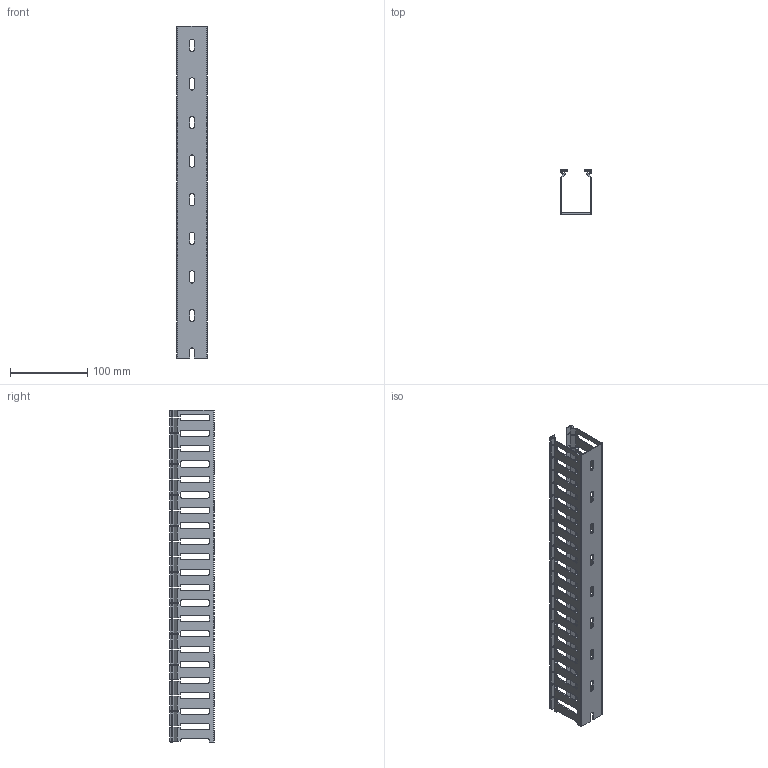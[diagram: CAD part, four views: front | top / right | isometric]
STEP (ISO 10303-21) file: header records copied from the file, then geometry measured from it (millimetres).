
FILE_DESCRIPTION(/* description */ (''),/* implementation_level */ '2;1');
FILE_NAME(/* name */ 'C:\Users\Fujimoto-s\OneDrive\Inventor\WorkSpace\\X2\305D306E4ED6\X0\\ホームページ用\\X2\30C030A630F330ED30FC30C97D206750\X0\\電装品\電気ダクト40×430\電気ダクト40×430.stp',/* time_stamp */ '2024-08-10T17:22:52+09:00',/* author */ ('Fujimoto-s'),/* organization */ (''),/* preprocessor_version */ 'ST-DEVELOPER v15.2',/* originating_system */ 'Autodesk Inventor 2014',/* authorisation */ '');
FILE_SCHEMA (('AUTOMOTIVE_DESIGN { 1 0 10303 214 3 1 1 }'));
Length unit declared in the file: millimetre
Products named in the file (1): 電気ダクト40×430
Bounding box: 40.1 x 58 x 430 mm (x, y, z)
Volume: 90009.7 mm3; surface area: 129948.6 mm2
Topology: 1 solids, 1 shells, 966 faces, 3018 edges, 2012 vertices
Faces by surface type: plane 706, cylinder 260
Entity records: 33505 total; most frequent: ORIENTED_EDGE 6036, CARTESIAN_POINT 5997, DIRECTION 5515, EDGE_CURVE 3018, LINE 2455, VECTOR 2455, VERTEX_POINT 2012, AXIS2_PLACEMENT_3D 1530
